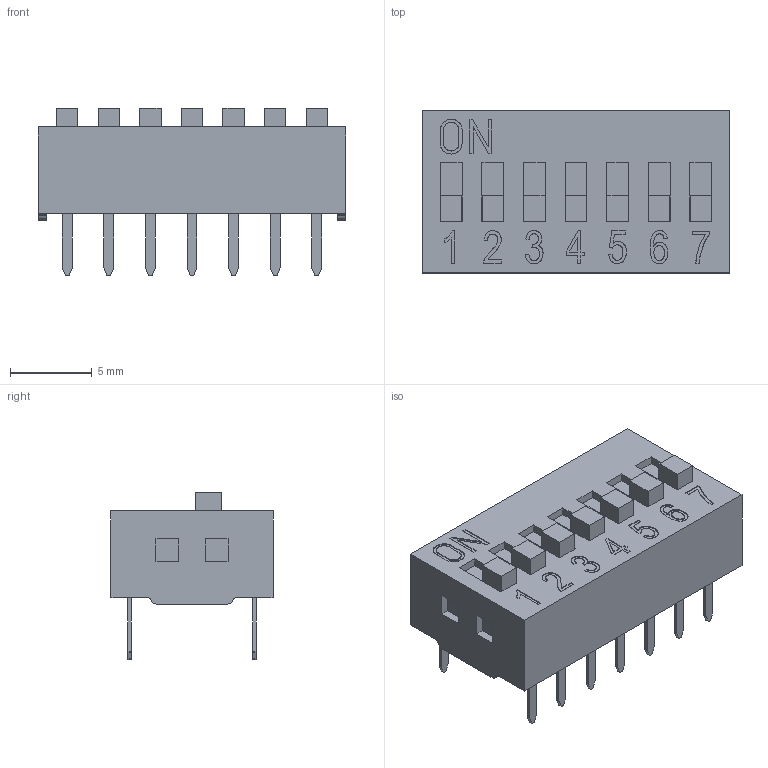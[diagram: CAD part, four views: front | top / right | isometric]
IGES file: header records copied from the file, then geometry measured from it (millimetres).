
Global section: file name: Filename.iges; native system: Open CASCADE 7.3; preprocessor: Open CASCADE IGES processor 7.3; date: 20200811.075220; units: millimetre
Bounding box: 18.78 x 9.9 x 10.25 mm (x, y, z)
Surface area: 2059.8 mm2 (no closed solid volume)
Topology: 0 solids, 0 shells, 540 faces, 2766 edges, 2766 vertices
Faces by surface type: plane 417, revolution 64, bspline 59
